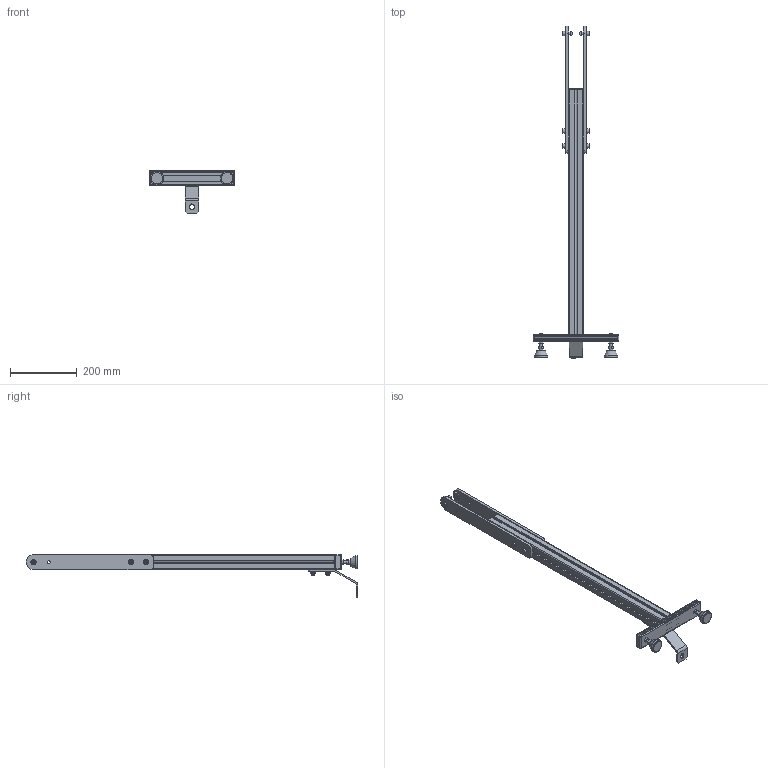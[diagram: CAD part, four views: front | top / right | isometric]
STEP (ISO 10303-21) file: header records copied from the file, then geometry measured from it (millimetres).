
FILE_DESCRIPTION (( 'STEP AP214' ), '1' );
FILE_NAME ('983-008-35.STEP', '2020-11-23T08:59:15', ( '' ), ( '' ), 'SwSTEP 2.0', 'SolidWorks 2020', '' );
FILE_SCHEMA (( 'AUTOMOTIVE_DESIGN' ));
Length unit declared in the file: millimetre
Products named in the file (16): 935-055SV; CHASSIS JAMBAGE TB52 35_D‚faut[Brut d''usinage]; CHC M8X20 + RP8; 983-007; EMBOUT_915-010; 910-002_910-235; 935-016; CHC THE_910-052H; 982-017; 935-055; 910-100; RONDELLE_910-111; 983-008-35; EMBOUT_915-006; 905-020; 905-021
Assembly tree (22 placements, depth 4):
  983-008-35
    CHASSIS JAMBAGE TB52 35_D‚faut[Brut d''usinage]
    935-055
      935-055SV
      910-100  x2
      910-002_910-235  x2
    EMBOUT_915-006  x2
    935-016  x2
    EMBOUT_915-010
    983-007  x2
      CHC M8X20 + RP8
        CHC THE_910-052H
        RONDELLE_910-111
      905-020
      905-021
      982-017
Bounding box: 256 x 996.5 x 128 mm (x, y, z)
Volume: 1450884.2 mm3; surface area: 461422.3 mm2
Topology: 30 solids, 30 shells, 578 faces, 1356 edges, 850 vertices
Faces by surface type: plane 354, cylinder 132, cone 66, sphere 12, torus 12, bspline 2
Full cylindrical faces by diameter (mm): 6 x6, 6.8 x12, 7.3 x2, 7.98 x6, 8 x12, 8.4 x6, 8.5 x8, 9 x2, 13 x6, 16 x6, 17 x2, 34 x2, 40 x2
Entity records: 9141 total; most frequent: CARTESIAN_POINT 1825, DIRECTION 1396, ORIENTED_EDGE 1272, EDGE_CURVE 636, AXIS2_PLACEMENT_3D 473, VECTOR 450, LINE 450, VERTEX_POINT 430
